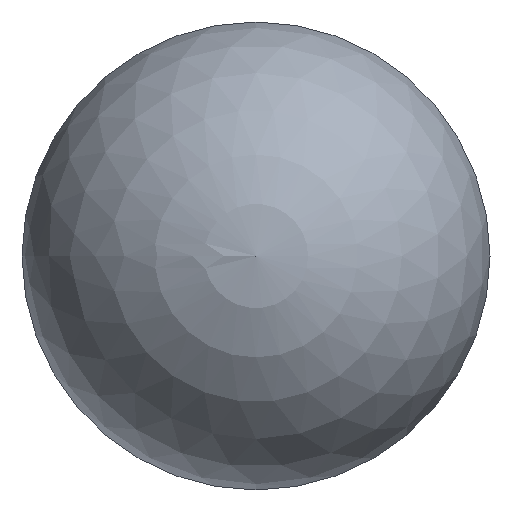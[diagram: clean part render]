
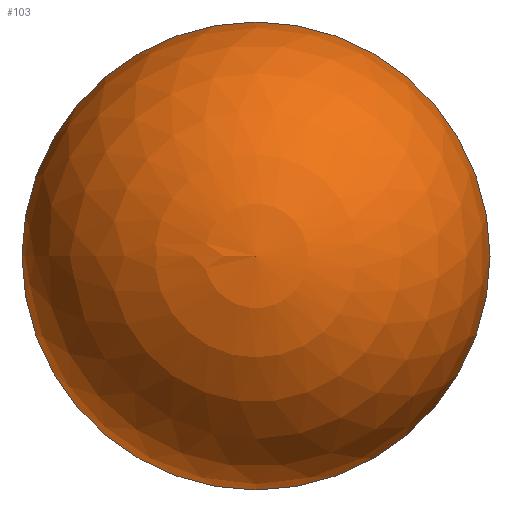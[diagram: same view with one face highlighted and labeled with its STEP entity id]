
A CAD part, left-side view. The second image highlights one B-rep face of the part: STEP entity #103.
In plain terms, the highlighted spherical face has radius 4 mm.
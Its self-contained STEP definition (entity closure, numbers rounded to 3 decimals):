
#101=SPHERICAL_SURFACE('',#134,4.);
#103=ADVANCED_FACE('',(#108),#101,.T.);
#108=FACE_OUTER_BOUND('',#110,.T.);
#110=EDGE_LOOP('',(#116));
#116=ORIENTED_EDGE('',*,*,#125,.T.);
#122=VERTEX_POINT('',#159);
#125=EDGE_CURVE('',#122,#122,#128,.T.);
#128=CIRCLE('',#133,4.);
#133=AXIS2_PLACEMENT_3D('',#158,#144,#145);
#134=AXIS2_PLACEMENT_3D('',#160,#146,#147);
#144=DIRECTION('',(-1.,0.,0.));
#145=DIRECTION('',(0.,-1.,0.));
#146=DIRECTION('',(-1.,0.,0.));
#147=DIRECTION('',(0.,1.,0.));
#158=CARTESIAN_POINT('',(7901.725,6122.353,0.));
#159=CARTESIAN_POINT('',(7901.725,6118.353,0.));
#160=CARTESIAN_POINT('',(7901.725,6122.353,0.));
